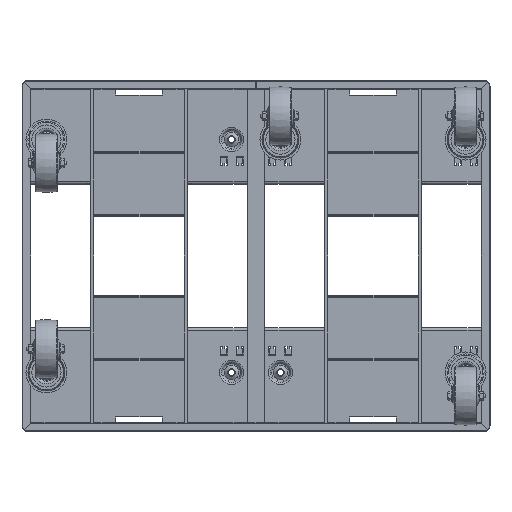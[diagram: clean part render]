
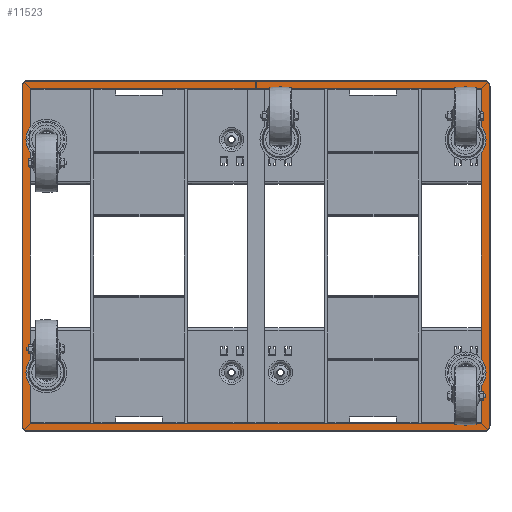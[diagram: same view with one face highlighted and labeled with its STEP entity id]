
A CAD part, front view. The second image highlights one B-rep face of the part: STEP entity #11523.
In plain terms, the highlighted planar face has unit normal (0, -1, 0) as drawn and (0, 1, 0) by its records, which use the part's own axes.
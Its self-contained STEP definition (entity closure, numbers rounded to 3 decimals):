
#856=LINE('',#18419,#2154);
#857=LINE('',#18422,#2155);
#858=LINE('',#18424,#2156);
#859=LINE('',#18426,#2157);
#860=LINE('',#18428,#2158);
#861=LINE('',#18430,#2159);
#862=LINE('',#18432,#2160);
#863=LINE('',#18434,#2161);
#864=LINE('',#18436,#2162);
#865=LINE('',#18438,#2163);
#866=LINE('',#18440,#2164);
#867=LINE('',#18442,#2165);
#868=LINE('',#18444,#2166);
#869=LINE('',#18446,#2167);
#870=LINE('',#18448,#2168);
#871=LINE('',#18450,#2169);
#872=LINE('',#18452,#2170);
#873=LINE('',#18454,#2171);
#874=LINE('',#18456,#2172);
#875=LINE('',#18458,#2173);
#876=LINE('',#18460,#2174);
#877=LINE('',#18464,#2175);
#878=LINE('',#18468,#2176);
#879=LINE('',#18472,#2177);
#2154=VECTOR('',#14676,1000.);
#2155=VECTOR('',#14677,1000.);
#2156=VECTOR('',#14678,1000.);
#2157=VECTOR('',#14679,1000.);
#2158=VECTOR('',#14680,1000.);
#2159=VECTOR('',#14681,1000.);
#2160=VECTOR('',#14682,1000.);
#2161=VECTOR('',#14683,1000.);
#2162=VECTOR('',#14684,1000.);
#2163=VECTOR('',#14685,1000.);
#2164=VECTOR('',#14686,1000.);
#2165=VECTOR('',#14687,1000.);
#2166=VECTOR('',#14688,1000.);
#2167=VECTOR('',#14689,1000.);
#2168=VECTOR('',#14690,1000.);
#2169=VECTOR('',#14691,1000.);
#2170=VECTOR('',#14692,1000.);
#2171=VECTOR('',#14693,1000.);
#2172=VECTOR('',#14694,1000.);
#2173=VECTOR('',#14695,1000.);
#2174=VECTOR('',#14696,1000.);
#2175=VECTOR('',#14699,1000.);
#2176=VECTOR('',#14702,1000.);
#2177=VECTOR('',#14705,1000.);
#3494=ORIENTED_EDGE('',*,*,#6798,.T.);
#3495=ORIENTED_EDGE('',*,*,#6799,.T.);
#3496=ORIENTED_EDGE('',*,*,#6800,.T.);
#3497=ORIENTED_EDGE('',*,*,#6801,.F.);
#3498=ORIENTED_EDGE('',*,*,#6802,.F.);
#3499=ORIENTED_EDGE('',*,*,#6803,.F.);
#3500=ORIENTED_EDGE('',*,*,#6804,.T.);
#3501=ORIENTED_EDGE('',*,*,#6805,.F.);
#3502=ORIENTED_EDGE('',*,*,#6806,.F.);
#3503=ORIENTED_EDGE('',*,*,#6807,.F.);
#3504=ORIENTED_EDGE('',*,*,#6808,.T.);
#3505=ORIENTED_EDGE('',*,*,#6809,.F.);
#3506=ORIENTED_EDGE('',*,*,#6810,.F.);
#3507=ORIENTED_EDGE('',*,*,#6811,.F.);
#3508=ORIENTED_EDGE('',*,*,#6812,.T.);
#3509=ORIENTED_EDGE('',*,*,#6813,.F.);
#3510=ORIENTED_EDGE('',*,*,#6814,.F.);
#3511=ORIENTED_EDGE('',*,*,#6815,.F.);
#3512=ORIENTED_EDGE('',*,*,#6816,.T.);
#3513=ORIENTED_EDGE('',*,*,#6817,.T.);
#3514=ORIENTED_EDGE('',*,*,#6818,.T.);
#3515=ORIENTED_EDGE('',*,*,#6819,.T.);
#3516=ORIENTED_EDGE('',*,*,#6820,.T.);
#3517=ORIENTED_EDGE('',*,*,#6821,.T.);
#3518=ORIENTED_EDGE('',*,*,#6822,.T.);
#3519=ORIENTED_EDGE('',*,*,#6823,.T.);
#3520=ORIENTED_EDGE('',*,*,#6824,.T.);
#3521=ORIENTED_EDGE('',*,*,#6825,.T.);
#6798=EDGE_CURVE('',#8448,#8449,#856,.T.);
#6799=EDGE_CURVE('',#8449,#8450,#857,.T.);
#6800=EDGE_CURVE('',#8450,#8451,#858,.F.);
#6801=EDGE_CURVE('',#8452,#8451,#859,.T.);
#6802=EDGE_CURVE('',#8453,#8452,#860,.T.);
#6803=EDGE_CURVE('',#8454,#8453,#861,.T.);
#6804=EDGE_CURVE('',#8454,#8455,#862,.F.);
#6805=EDGE_CURVE('',#8456,#8455,#863,.T.);
#6806=EDGE_CURVE('',#8457,#8456,#864,.T.);
#6807=EDGE_CURVE('',#8458,#8457,#865,.T.);
#6808=EDGE_CURVE('',#8458,#8459,#866,.F.);
#6809=EDGE_CURVE('',#8460,#8459,#867,.T.);
#6810=EDGE_CURVE('',#8461,#8460,#868,.T.);
#6811=EDGE_CURVE('',#8462,#8461,#869,.T.);
#6812=EDGE_CURVE('',#8462,#8463,#870,.F.);
#6813=EDGE_CURVE('',#8464,#8463,#871,.T.);
#6814=EDGE_CURVE('',#8465,#8464,#872,.T.);
#6815=EDGE_CURVE('',#8466,#8465,#873,.T.);
#6816=EDGE_CURVE('',#8466,#8467,#874,.F.);
#6817=EDGE_CURVE('',#8467,#8468,#875,.T.);
#6818=EDGE_CURVE('',#8468,#8469,#876,.T.);
#6819=EDGE_CURVE('',#8469,#8470,#9056,.T.);
#6820=EDGE_CURVE('',#8470,#8471,#877,.T.);
#6821=EDGE_CURVE('',#8471,#8472,#9057,.T.);
#6822=EDGE_CURVE('',#8472,#8473,#878,.T.);
#6823=EDGE_CURVE('',#8473,#8474,#9058,.T.);
#6824=EDGE_CURVE('',#8474,#8475,#879,.T.);
#6825=EDGE_CURVE('',#8475,#8448,#9059,.T.);
#8448=VERTEX_POINT('',#18420);
#8449=VERTEX_POINT('',#18421);
#8450=VERTEX_POINT('',#18423);
#8451=VERTEX_POINT('',#18425);
#8452=VERTEX_POINT('',#18427);
#8453=VERTEX_POINT('',#18429);
#8454=VERTEX_POINT('',#18431);
#8455=VERTEX_POINT('',#18433);
#8456=VERTEX_POINT('',#18435);
#8457=VERTEX_POINT('',#18437);
#8458=VERTEX_POINT('',#18439);
#8459=VERTEX_POINT('',#18441);
#8460=VERTEX_POINT('',#18443);
#8461=VERTEX_POINT('',#18445);
#8462=VERTEX_POINT('',#18447);
#8463=VERTEX_POINT('',#18449);
#8464=VERTEX_POINT('',#18451);
#8465=VERTEX_POINT('',#18453);
#8466=VERTEX_POINT('',#18455);
#8467=VERTEX_POINT('',#18457);
#8468=VERTEX_POINT('',#18459);
#8469=VERTEX_POINT('',#18461);
#8470=VERTEX_POINT('',#18463);
#8471=VERTEX_POINT('',#18465);
#8472=VERTEX_POINT('',#18467);
#8473=VERTEX_POINT('',#18469);
#8474=VERTEX_POINT('',#18471);
#8475=VERTEX_POINT('',#18473);
#9056=CIRCLE('',#13107,9.);
#9057=CIRCLE('',#13108,9.);
#9058=CIRCLE('',#13109,9.);
#9059=CIRCLE('',#13110,9.);
#9391=EDGE_LOOP('',(#3494,#3495,#3496,#3497,#3498,#3499,#3500,#3501,#3502,
#3503,#3504,#3505,#3506,#3507,#3508,#3509,#3510,#3511,#3512,#3513,#3514,
#3515,#3516,#3517,#3518,#3519,#3520,#3521));
#10255=FACE_BOUND('',#9391,.T.);
#11063=PLANE('',#13106);
#11523=ADVANCED_FACE('',(#10255),#11063,.T.);
#13106=AXIS2_PLACEMENT_3D('',#18418,#14674,#14675);
#13107=AXIS2_PLACEMENT_3D('',#18462,#14697,#14698);
#13108=AXIS2_PLACEMENT_3D('',#18466,#14700,#14701);
#13109=AXIS2_PLACEMENT_3D('',#18470,#14703,#14704);
#13110=AXIS2_PLACEMENT_3D('',#18474,#14706,#14707);
#14674=DIRECTION('',(0.,1.,0.));
#14675=DIRECTION('',(0.,0.,1.));
#14676=DIRECTION('',(1.,0.,0.));
#14677=DIRECTION('',(0.,0.,-1.));
#14678=DIRECTION('',(1.,0.,0.));
#14679=DIRECTION('',(0.707,0.,-0.707));
#14680=DIRECTION('',(0.707,0.,0.707));
#14681=DIRECTION('',(-0.707,0.,0.707));
#14682=DIRECTION('',(0.,0.,1.));
#14683=DIRECTION('',(0.707,0.,0.707));
#14684=DIRECTION('',(-0.707,0.,0.707));
#14685=DIRECTION('',(-0.707,0.,-0.707));
#14686=DIRECTION('',(-1.,0.,0.));
#14687=DIRECTION('',(-0.707,0.,0.707));
#14688=DIRECTION('',(-0.707,0.,-0.707));
#14689=DIRECTION('',(0.707,0.,-0.707));
#14690=DIRECTION('',(0.,0.,-1.));
#14691=DIRECTION('',(-0.707,0.,-0.707));
#14692=DIRECTION('',(0.707,0.,-0.707));
#14693=DIRECTION('',(0.707,0.,0.707));
#14694=DIRECTION('',(1.,0.,0.));
#14695=DIRECTION('',(0.,0.,1.));
#14696=DIRECTION('',(1.,0.,0.));
#14697=DIRECTION('',(0.,1.,0.));
#14698=DIRECTION('',(0.,0.,1.));
#14699=DIRECTION('',(0.,0.,-1.));
#14700=DIRECTION('',(0.,1.,0.));
#14701=DIRECTION('',(0.,0.,1.));
#14702=DIRECTION('',(-1.,0.,0.));
#14703=DIRECTION('',(0.,1.,0.));
#14704=DIRECTION('',(0.,0.,1.));
#14705=DIRECTION('',(0.,0.,1.));
#14706=DIRECTION('',(0.,1.,0.));
#14707=DIRECTION('',(0.,0.,1.));
#18418=CARTESIAN_POINT('',(-390.,0.,290.));
#18419=CARTESIAN_POINT('',(-390.,0.,299.));
#18420=CARTESIAN_POINT('',(-390.,0.,299.));
#18421=CARTESIAN_POINT('',(-0.2,0.,299.));
#18422=CARTESIAN_POINT('',(-0.2,0.,290.));
#18423=CARTESIAN_POINT('',(-0.2,0.,286.));
#18424=CARTESIAN_POINT('',(-384.576,0.,286.));
#18425=CARTESIAN_POINT('',(-385.576,0.,286.));
#18426=CARTESIAN_POINT('',(-395.889,0.,296.314));
#18427=CARTESIAN_POINT('',(-395.889,0.,296.314));
#18428=CARTESIAN_POINT('',(-396.314,0.,295.889));
#18429=CARTESIAN_POINT('',(-396.314,0.,295.889));
#18430=CARTESIAN_POINT('',(-385.,0.,284.576));
#18431=CARTESIAN_POINT('',(-386.,0.,285.576));
#18432=CARTESIAN_POINT('',(-386.,0.,-284.576));
#18433=CARTESIAN_POINT('',(-386.,0.,-285.576));
#18434=CARTESIAN_POINT('',(-396.314,0.,-295.889));
#18435=CARTESIAN_POINT('',(-396.314,0.,-295.889));
#18436=CARTESIAN_POINT('',(-395.889,0.,-296.314));
#18437=CARTESIAN_POINT('',(-395.889,0.,-296.314));
#18438=CARTESIAN_POINT('',(-384.576,0.,-285.));
#18439=CARTESIAN_POINT('',(-385.576,0.,-286.));
#18440=CARTESIAN_POINT('',(384.576,0.,-286.));
#18441=CARTESIAN_POINT('',(385.576,0.,-286.));
#18442=CARTESIAN_POINT('',(395.889,0.,-296.314));
#18443=CARTESIAN_POINT('',(395.889,0.,-296.314));
#18444=CARTESIAN_POINT('',(396.314,0.,-295.889));
#18445=CARTESIAN_POINT('',(396.314,0.,-295.889));
#18446=CARTESIAN_POINT('',(385.,0.,-284.576));
#18447=CARTESIAN_POINT('',(386.,0.,-285.576));
#18448=CARTESIAN_POINT('',(386.,0.,284.576));
#18449=CARTESIAN_POINT('',(386.,0.,285.576));
#18450=CARTESIAN_POINT('',(396.314,0.,295.889));
#18451=CARTESIAN_POINT('',(396.314,0.,295.889));
#18452=CARTESIAN_POINT('',(395.889,0.,296.314));
#18453=CARTESIAN_POINT('',(395.889,0.,296.314));
#18454=CARTESIAN_POINT('',(384.576,0.,285.));
#18455=CARTESIAN_POINT('',(385.576,0.,286.));
#18456=CARTESIAN_POINT('',(-384.576,0.,286.));
#18457=CARTESIAN_POINT('',(0.2,0.,286.));
#18458=CARTESIAN_POINT('',(0.2,0.,290.));
#18459=CARTESIAN_POINT('',(0.2,0.,299.));
#18460=CARTESIAN_POINT('',(-390.,0.,299.));
#18461=CARTESIAN_POINT('',(390.,0.,299.));
#18462=CARTESIAN_POINT('',(390.,0.,290.));
#18463=CARTESIAN_POINT('',(399.,0.,290.));
#18464=CARTESIAN_POINT('',(399.,0.,290.));
#18465=CARTESIAN_POINT('',(399.,0.,-290.));
#18466=CARTESIAN_POINT('',(390.,0.,-290.));
#18467=CARTESIAN_POINT('',(390.,0.,-299.));
#18468=CARTESIAN_POINT('',(-390.,0.,-299.));
#18469=CARTESIAN_POINT('',(-390.,0.,-299.));
#18470=CARTESIAN_POINT('',(-390.,0.,-290.));
#18471=CARTESIAN_POINT('',(-399.,0.,-290.));
#18472=CARTESIAN_POINT('',(-399.,0.,290.));
#18473=CARTESIAN_POINT('',(-399.,0.,290.));
#18474=CARTESIAN_POINT('',(-390.,0.,290.));
